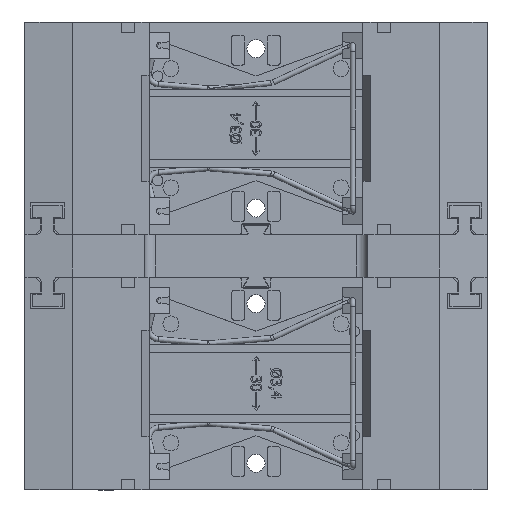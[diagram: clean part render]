
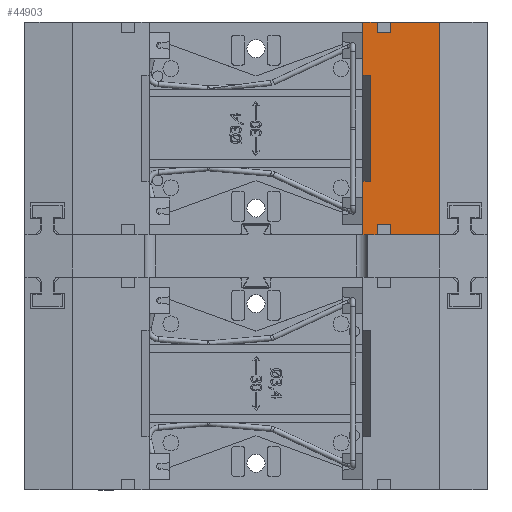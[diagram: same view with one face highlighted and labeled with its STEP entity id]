
A CAD part, top view. The second image highlights one B-rep face of the part: STEP entity #44903.
In plain terms, the highlighted planar face has unit normal (0, 0, 1).
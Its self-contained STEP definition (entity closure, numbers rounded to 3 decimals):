
#491=CARTESIAN_POINT('',(21.,4.,10.0));
#492=VERTEX_POINT('',#491);
#499=CARTESIAN_POINT('',(20.1,4.,10.));
#500=VERTEX_POINT('',#499);
#501=CARTESIAN_POINT('',(21.0,4.,10.));
#502=DIRECTION('',(-1.0,0.0,0.0));
#503=VECTOR('',#502,0.9);
#504=LINE('',#501,#503);
#505=EDGE_CURVE('',#492,#500,#504,.T.);
#2809=CARTESIAN_POINT('',(25.3,5.9,10.));
#2810=VERTEX_POINT('',#2809);
#2817=CARTESIAN_POINT('',(22.8,5.9,10.));
#2818=VERTEX_POINT('',#2817);
#2819=CARTESIAN_POINT('',(22.8,5.9,10.));
#2820=DIRECTION('',(1.0,0.0,0.0));
#2821=VECTOR('',#2820,2.5);
#2822=LINE('',#2819,#2821);
#2823=EDGE_CURVE('',#2818,#2810,#2822,.T.);
#3387=CARTESIAN_POINT('',(22.8,42.1,10.));
#3388=VERTEX_POINT('',#3387);
#3395=CARTESIAN_POINT('',(25.3,42.1,10.));
#3396=VERTEX_POINT('',#3395);
#3397=CARTESIAN_POINT('',(25.3,42.1,10.));
#3398=DIRECTION('',(-1.0,0.0,0.0));
#3399=VECTOR('',#3398,2.5);
#3400=LINE('',#3397,#3399);
#3401=EDGE_CURVE('',#3396,#3388,#3400,.T.);
#44575=CARTESIAN_POINT('',(34.541,4.,10.0));
#44576=VERTEX_POINT('',#44575);
#44648=CARTESIAN_POINT('',(34.541,44.,10.));
#44649=VERTEX_POINT('',#44648);
#44656=CARTESIAN_POINT('',(34.541,4.,10.));
#44657=DIRECTION('',(0.0,1.0,0.0));
#44658=VECTOR('',#44657,40.0);
#44659=LINE('',#44656,#44658);
#44660=EDGE_CURVE('',#44576,#44649,#44659,.T.);
#44796=CARTESIAN_POINT('',(7.811,16.189,10.));
#44797=DIRECTION('',(0.0,0.0,1.0));
#44798=DIRECTION('',(-1.0,0.0,0.0));
#44799=AXIS2_PLACEMENT_3D('',#44796,#44797,#44798);
#44800=PLANE('',#44799);
#44801=ORIENTED_EDGE('',*,*,#44660,.T.);
#44802=CARTESIAN_POINT('',(25.3,44.,10.));
#44803=VERTEX_POINT('',#44802);
#44804=CARTESIAN_POINT('',(25.3,44.,10.));
#44805=DIRECTION('',(1.0,0.0,0.0));
#44806=VECTOR('',#44805,9.241);
#44807=LINE('',#44804,#44806);
#44808=EDGE_CURVE('',#44803,#44649,#44807,.T.);
#44809=ORIENTED_EDGE('',*,*,#44808,.F.);
#44810=CARTESIAN_POINT('',(25.3,44.,10.));
#44811=DIRECTION('',(0.0,-1.0,0.0));
#44812=VECTOR('',#44811,1.9);
#44813=LINE('',#44810,#44812);
#44814=EDGE_CURVE('',#44803,#3396,#44813,.T.);
#44815=ORIENTED_EDGE('',*,*,#44814,.T.);
#44816=ORIENTED_EDGE('',*,*,#3401,.T.);
#44817=CARTESIAN_POINT('',(22.8,44.,10.));
#44818=VERTEX_POINT('',#44817);
#44819=CARTESIAN_POINT('',(22.8,42.1,10.));
#44820=DIRECTION('',(0.0,1.0,0.0));
#44821=VECTOR('',#44820,1.9);
#44822=LINE('',#44819,#44821);
#44823=EDGE_CURVE('',#3388,#44818,#44822,.T.);
#44824=ORIENTED_EDGE('',*,*,#44823,.T.);
#44825=CARTESIAN_POINT('',(20.1,44.,10.));
#44826=VERTEX_POINT('',#44825);
#44827=CARTESIAN_POINT('',(20.1,44.,10.));
#44828=DIRECTION('',(1.0,0.0,0.0));
#44829=VECTOR('',#44828,2.7);
#44830=LINE('',#44827,#44829);
#44831=EDGE_CURVE('',#44826,#44818,#44830,.T.);
#44832=ORIENTED_EDGE('',*,*,#44831,.F.);
#44833=CARTESIAN_POINT('',(20.1,34.,10.));
#44834=VERTEX_POINT('',#44833);
#44835=CARTESIAN_POINT('',(20.1,44.,10.));
#44836=DIRECTION('',(0.0,-1.0,0.0));
#44837=VECTOR('',#44836,10.0);
#44838=LINE('',#44835,#44837);
#44839=EDGE_CURVE('',#44826,#44834,#44838,.T.);
#44840=ORIENTED_EDGE('',*,*,#44839,.T.);
#44841=CARTESIAN_POINT('',(21.543,34.,10.));
#44842=VERTEX_POINT('',#44841);
#44843=CARTESIAN_POINT('',(20.1,34.,10.));
#44844=DIRECTION('',(1.0,0.0,0.0));
#44845=VECTOR('',#44844,1.443);
#44846=LINE('',#44843,#44845);
#44847=EDGE_CURVE('',#44834,#44842,#44846,.T.);
#44848=ORIENTED_EDGE('',*,*,#44847,.T.);
#44849=CARTESIAN_POINT('',(21.543,14.,10.));
#44850=VERTEX_POINT('',#44849);
#44851=CARTESIAN_POINT('',(21.543,34.,10.));
#44852=DIRECTION('',(0.0,-1.0,0.0));
#44853=VECTOR('',#44852,20.0);
#44854=LINE('',#44851,#44853);
#44855=EDGE_CURVE('',#44842,#44850,#44854,.T.);
#44856=ORIENTED_EDGE('',*,*,#44855,.T.);
#44857=CARTESIAN_POINT('',(20.1,14.,10.));
#44858=VERTEX_POINT('',#44857);
#44859=CARTESIAN_POINT('',(21.543,14.,10.));
#44860=DIRECTION('',(-1.0,0.0,0.0));
#44861=VECTOR('',#44860,1.443);
#44862=LINE('',#44859,#44861);
#44863=EDGE_CURVE('',#44850,#44858,#44862,.T.);
#44864=ORIENTED_EDGE('',*,*,#44863,.T.);
#44865=CARTESIAN_POINT('',(20.1,14.,10.));
#44866=DIRECTION('',(0.0,-1.0,0.0));
#44867=VECTOR('',#44866,10.0);
#44868=LINE('',#44865,#44867);
#44869=EDGE_CURVE('',#44858,#500,#44868,.T.);
#44870=ORIENTED_EDGE('',*,*,#44869,.T.);
#44871=ORIENTED_EDGE('',*,*,#505,.F.);
#44872=CARTESIAN_POINT('',(22.8,4.,10.));
#44873=VERTEX_POINT('',#44872);
#44874=CARTESIAN_POINT('',(21.,4.,10.0));
#44875=DIRECTION('',(1.0,0.0,0.0));
#44876=VECTOR('',#44875,1.8);
#44877=LINE('',#44874,#44876);
#44878=EDGE_CURVE('',#492,#44873,#44877,.T.);
#44879=ORIENTED_EDGE('',*,*,#44878,.T.);
#44880=CARTESIAN_POINT('',(22.8,4.,10.));
#44881=DIRECTION('',(0.0,1.0,0.0));
#44882=VECTOR('',#44881,1.9);
#44883=LINE('',#44880,#44882);
#44884=EDGE_CURVE('',#44873,#2818,#44883,.T.);
#44885=ORIENTED_EDGE('',*,*,#44884,.T.);
#44886=ORIENTED_EDGE('',*,*,#2823,.T.);
#44887=CARTESIAN_POINT('',(25.3,4.,10.));
#44888=VERTEX_POINT('',#44887);
#44889=CARTESIAN_POINT('',(25.3,5.9,10.));
#44890=DIRECTION('',(0.0,-1.0,0.0));
#44891=VECTOR('',#44890,1.9);
#44892=LINE('',#44889,#44891);
#44893=EDGE_CURVE('',#2810,#44888,#44892,.T.);
#44894=ORIENTED_EDGE('',*,*,#44893,.T.);
#44895=CARTESIAN_POINT('',(25.3,4.,10.0));
#44896=DIRECTION('',(1.0,0.0,0.0));
#44897=VECTOR('',#44896,9.241);
#44898=LINE('',#44895,#44897);
#44899=EDGE_CURVE('',#44888,#44576,#44898,.T.);
#44900=ORIENTED_EDGE('',*,*,#44899,.T.);
#44901=EDGE_LOOP('',(#44801,#44809,#44815,#44816,#44824,#44832,#44840,#44848,#44856,#44864,#44870,#44871,#44879,#44885,#44886,#44894,#44900));
#44902=FACE_OUTER_BOUND('',#44901,.T.);
#44903=ADVANCED_FACE('',(#44902),#44800,.T.);
